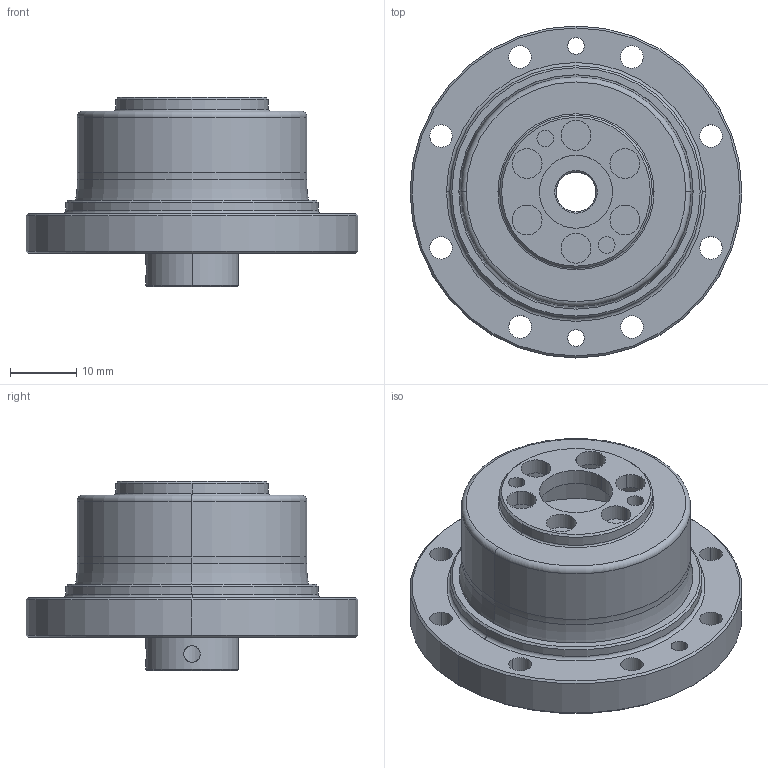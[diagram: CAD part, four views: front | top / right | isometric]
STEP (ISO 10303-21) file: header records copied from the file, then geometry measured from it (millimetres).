
FILE_DESCRIPTION (( 'STEP AP203' ), '1' );
FILE_NAME ('FCG-14-XXX-CO.STEP', '2022-11-10T05:58:15', ( '微软用户' ), ( '微软中国' ), 'SwSTEP 2.0', 'SolidWorks 2016', '' );
FILE_SCHEMA (( 'CONFIG_CONTROL_DESIGN' ));
Length unit declared in the file: millimetre
Products named in the file (1): FCG-14-XXX-CO
Bounding box: 50 x 50 x 28.5 mm (x, y, z)
Volume: 16193.8 mm3; surface area: 21533.9 mm2
Topology: 34 solids, 34 shells, 428 faces, 1150 edges, 749 vertices
Faces by surface type: cylinder 192, plane 107, cone 53, sphere 46, torus 30
Entity records: 13122 total; most frequent: DIRECTION 2499, CARTESIAN_POINT 2382, ORIENTED_EDGE 2070, AXIS2_PLACEMENT_3D 1071, EDGE_CURVE 1035, VERTEX_POINT 680, CIRCLE 642, EDGE_LOOP 495
